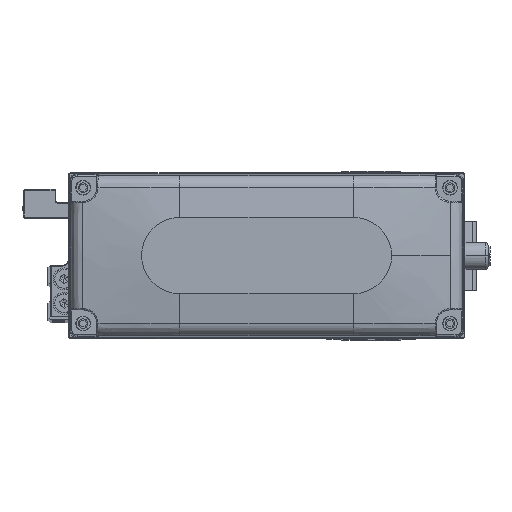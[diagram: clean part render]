
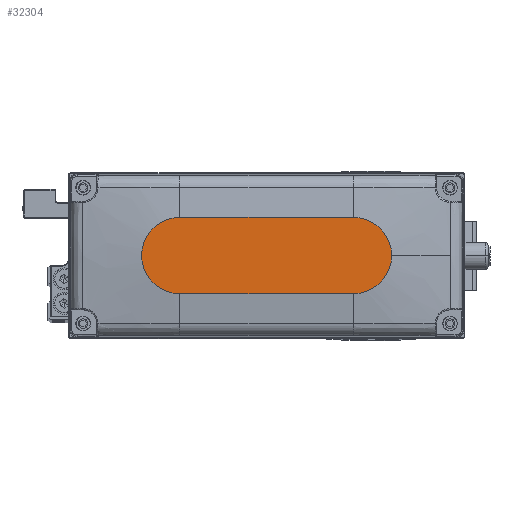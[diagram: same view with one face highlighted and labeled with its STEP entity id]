
A CAD part, top view. The second image highlights one B-rep face of the part: STEP entity #32304.
In plain terms, the highlighted planar face has unit normal (0, 0, 1).
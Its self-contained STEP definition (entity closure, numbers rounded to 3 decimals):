
#2313 = ORIENTED_EDGE ( 'NONE', *, *, #24614, .T. ) ;
#2742 = ORIENTED_EDGE ( 'NONE', *, *, #34194, .T. ) ;
#2990 = VECTOR ( 'NONE', #19658, 1000. ) ;
#4272 = AXIS2_PLACEMENT_3D ( 'NONE', #31329, #45764, #13348 ) ;
#4321 = EDGE_CURVE ( 'NONE', #6711, #14460, #26765, .T. ) ;
#4944 = AXIS2_PLACEMENT_3D ( 'NONE', #29811, #44258, #11836 ) ;
#5234 = CARTESIAN_POINT ( 'NONE',  ( -32., -14., 35. ) ) ;
#6220 = DIRECTION ( 'NONE',  ( 0., 0., 1. ) ) ;
#6711 = VERTEX_POINT ( 'NONE', #31838 ) ;
#8276 = VERTEX_POINT ( 'NONE', #33928 ) ;
#8517 = ORIENTED_EDGE ( 'NONE', *, *, #35310, .T. ) ;
#9465 = DIRECTION ( 'NONE',  ( 0., 0., 1. ) ) ;
#9766 = FACE_OUTER_BOUND ( 'NONE', #21674, .T. ) ;
#10701 = EDGE_CURVE ( 'NONE', #8276, #32481, #12208, .T. ) ;
#11836 = DIRECTION ( 'NONE',  ( 1., 0., 0. ) ) ;
#12208 = LINE ( 'NONE', #26638, #19091 ) ;
#12411 = VERTEX_POINT ( 'NONE', #35078 ) ;
#13348 = DIRECTION ( 'NONE',  ( 1., 0., 0. ) ) ;
#14460 = VERTEX_POINT ( 'NONE', #15275 ) ;
#15275 = CARTESIAN_POINT ( 'NONE',  ( 32., -14., 35. ) ) ;
#15865 = AXIS2_PLACEMENT_3D ( 'NONE', #41892, #9465, #23876 ) ;
#19091 = VECTOR ( 'NONE', #41077, 1000. ) ;
#19658 = DIRECTION ( 'NONE',  ( 1., 0., 0. ) ) ;
#20633 = DIRECTION ( 'NONE',  ( 1., 0., 0. ) ) ;
#21674 = EDGE_LOOP ( 'NONE', ( #23578, #2742, #24457, #8517, #2313 ) ) ;
#23578 = ORIENTED_EDGE ( 'NONE', *, *, #10701, .T. ) ;
#23876 = DIRECTION ( 'NONE',  ( 1., 0., 0. ) ) ;
#24172 = PLANE ( 'NONE',  #24975 ) ;
#24435 = CARTESIAN_POINT ( 'NONE',  ( -32., 14., 35. ) ) ;
#24457 = ORIENTED_EDGE ( 'NONE', *, *, #4321, .T. ) ;
#24614 = EDGE_CURVE ( 'NONE', #12411, #8276, #36295, .T. ) ;
#24659 = CIRCLE ( 'NONE', #4272, 14. ) ;
#24975 = AXIS2_PLACEMENT_3D ( 'NONE', #38644, #6220, #20633 ) ;
#25340 = CIRCLE ( 'NONE', #4944, 14. ) ;
#26638 = CARTESIAN_POINT ( 'NONE',  ( -32., 14., 35. ) ) ;
#26765 = LINE ( 'NONE', #5234, #2990 ) ;
#29811 = CARTESIAN_POINT ( 'NONE',  ( -32., 0., 35. ) ) ;
#31329 = CARTESIAN_POINT ( 'NONE',  ( 32., 0., 35. ) ) ;
#31838 = CARTESIAN_POINT ( 'NONE',  ( -32., -14., 35. ) ) ;
#32304 = ADVANCED_FACE ( 'NONE', ( #9766 ), #24172, .T. ) ;
#32481 = VERTEX_POINT ( 'NONE', #24435 ) ;
#33928 = CARTESIAN_POINT ( 'NONE',  ( 32., 14., 35. ) ) ;
#34194 = EDGE_CURVE ( 'NONE', #32481, #6711, #25340, .T. ) ;
#35078 = CARTESIAN_POINT ( 'NONE',  ( 46., 0., 35. ) ) ;
#35310 = EDGE_CURVE ( 'NONE', #14460, #12411, #24659, .T. ) ;
#36295 = CIRCLE ( 'NONE', #15865, 14. ) ;
#38644 = CARTESIAN_POINT ( 'NONE',  ( 0., 0., 35. ) ) ;
#41077 = DIRECTION ( 'NONE',  ( -1., 0., 0. ) ) ;
#41892 = CARTESIAN_POINT ( 'NONE',  ( 32., 0., 35. ) ) ;
#44258 = DIRECTION ( 'NONE',  ( 0., 0., 1. ) ) ;
#45764 = DIRECTION ( 'NONE',  ( 0., 0., 1. ) ) ;
